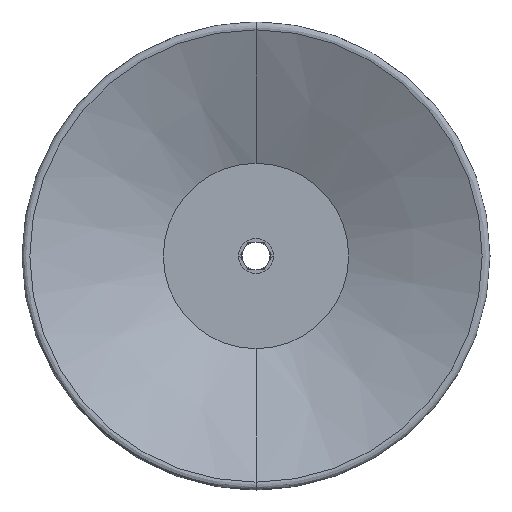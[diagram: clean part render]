
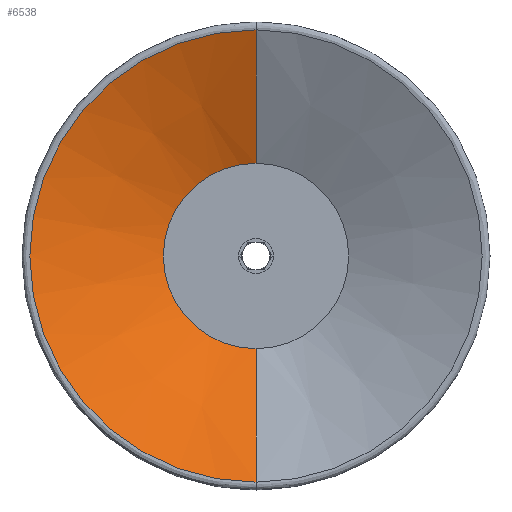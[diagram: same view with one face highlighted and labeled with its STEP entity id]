
A CAD part, front view. The second image highlights one B-rep face of the part: STEP entity #6538.
In plain terms, the highlighted conical face has half-angle 65.887 degrees and reference radius 48.81 mm.
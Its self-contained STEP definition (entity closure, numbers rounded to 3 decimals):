
#117 = DIRECTION ( 'NONE',  ( 0., -0.409, -0.913 ) ) ;
#365 = VERTEX_POINT ( 'NONE', #1562 ) ;
#654 = ORIENTED_EDGE ( 'NONE', *, *, #15641, .F. ) ;
#1287 = VERTEX_POINT ( 'NONE', #9476 ) ;
#1408 = DIRECTION ( 'NONE',  ( 0., 0., -1. ) ) ;
#1562 = CARTESIAN_POINT ( 'NONE',  ( 0., -27.895, -48.81 ) ) ;
#2455 = AXIS2_PLACEMENT_3D ( 'NONE', #9308, #13326, #8441 ) ;
#2511 = DIRECTION ( 'NONE',  ( 0., -0.409, 0.913 ) ) ;
#2617 = CARTESIAN_POINT ( 'NONE',  ( 0., -15., 0. ) ) ;
#3223 = EDGE_CURVE ( 'NONE', #365, #10426, #12555, .T. ) ;
#3596 = AXIS2_PLACEMENT_3D ( 'NONE', #2617, #10064, #1408 ) ;
#4465 = FACE_OUTER_BOUND ( 'NONE', #7902, .T. ) ;
#4669 = LINE ( 'NONE', #9499, #6861 ) ;
#5210 = LINE ( 'NONE', #13359, #9936 ) ;
#5408 = CARTESIAN_POINT ( 'NONE',  ( 0., -27.895, 48.81 ) ) ;
#6019 = ORIENTED_EDGE ( 'NONE', *, *, #3223, .F. ) ;
#6538 = ADVANCED_FACE ( 'NONE', ( #4465 ), #14097, .F. ) ;
#6861 = VECTOR ( 'NONE', #2511, 1000. ) ;
#7902 = EDGE_LOOP ( 'NONE', ( #10498, #11283, #6019, #654 ) ) ;
#8045 = VERTEX_POINT ( 'NONE', #9046 ) ;
#8441 = DIRECTION ( 'NONE',  ( 0., 0., -1. ) ) ;
#9046 = CARTESIAN_POINT ( 'NONE',  ( 0., -15., 20. ) ) ;
#9308 = CARTESIAN_POINT ( 'NONE',  ( 0., -27.895, 0. ) ) ;
#9476 = CARTESIAN_POINT ( 'NONE',  ( 0., -15., -20. ) ) ;
#9488 = DIRECTION ( 'NONE',  ( 0., 0., 1. ) ) ;
#9499 = CARTESIAN_POINT ( 'NONE',  ( 0., -27.895, 48.81 ) ) ;
#9936 = VECTOR ( 'NONE', #117, 1000. ) ;
#10064 = DIRECTION ( 'NONE',  ( 0., -1., 0. ) ) ;
#10426 = VERTEX_POINT ( 'NONE', #5408 ) ;
#10498 = ORIENTED_EDGE ( 'NONE', *, *, #14795, .F. ) ;
#11283 = ORIENTED_EDGE ( 'NONE', *, *, #13205, .T. ) ;
#11532 = AXIS2_PLACEMENT_3D ( 'NONE', #11547, #15523, #9488 ) ;
#11547 = CARTESIAN_POINT ( 'NONE',  ( 0., -27.895, 0. ) ) ;
#12555 = CIRCLE ( 'NONE', #11532, 48.81 ) ;
#13205 = EDGE_CURVE ( 'NONE', #8045, #10426, #4669, .T. ) ;
#13326 = DIRECTION ( 'NONE',  ( 0., -1., 0. ) ) ;
#13359 = CARTESIAN_POINT ( 'NONE',  ( 0., -27.895, -48.81 ) ) ;
#13983 = CIRCLE ( 'NONE', #3596, 20. ) ;
#14097 = CONICAL_SURFACE ( 'NONE', #2455, 48.81, 1.15 ) ;
#14795 = EDGE_CURVE ( 'NONE', #8045, #1287, #13983, .T. ) ;
#15523 = DIRECTION ( 'NONE',  ( 0., 1., 0. ) ) ;
#15641 = EDGE_CURVE ( 'NONE', #1287, #365, #5210, .T. ) ;
